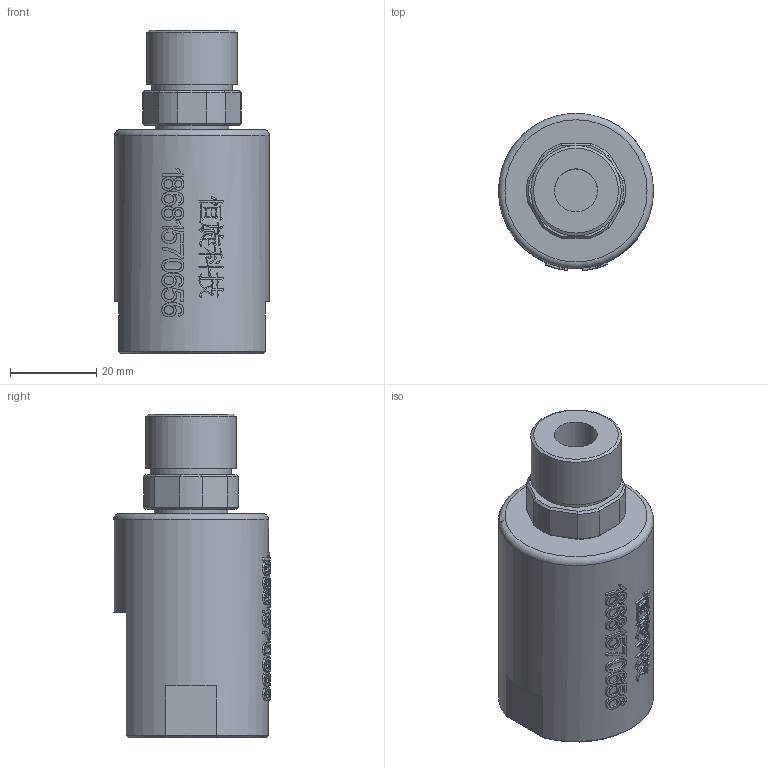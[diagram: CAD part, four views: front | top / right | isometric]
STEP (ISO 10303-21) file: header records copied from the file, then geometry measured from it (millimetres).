
FILE_DESCRIPTION(/* description */ (''),/* implementation_level */ '2;1');
FILE_NAME(/* name */ 'HQY0104.stp',/* time_stamp */ '2025-09-27T17:37:26+08:00',/* author */ (''),/* organization */ (''),/* preprocessor_version */ 'ST-DEVELOPER v16.7',/* originating_system */ 'SIEMENS PLM Software NX 12.0',/* authorisation */ '');
FILE_SCHEMA (('AUTOMOTIVE_DESIGN { 1 0 10303 214 3 1 1 1 }'));
Length unit declared in the file: millimetre
Products named in the file (1): Admi2B88A562884h
Bounding box: 36 x 36.41 x 75 mm (x, y, z)
Volume: 51562.5 mm3; surface area: 12568.2 mm2
Topology: 1 solids, 1 shells, 597 faces, 1625 edges, 1072 vertices
Faces by surface type: extrusion 311, plane 218, bspline 26, cylinder 25, cone 16, torus 1
Full cylindrical faces by diameter (mm): 10 x2, 17.172 x1, 18.672 x1, 19.5 x1, 21 x1, 36 x1
Entity records: 24202 total; most frequent: CARTESIAN_POINT 11597, ORIENTED_EDGE 3222, EDGE_CURVE 1611, B_SPLINE_CURVE_WITH_KNOTS 1587, DIRECTION 1350, VERTEX_POINT 1068, EDGE_LOOP 649, ADVANCED_FACE 596
